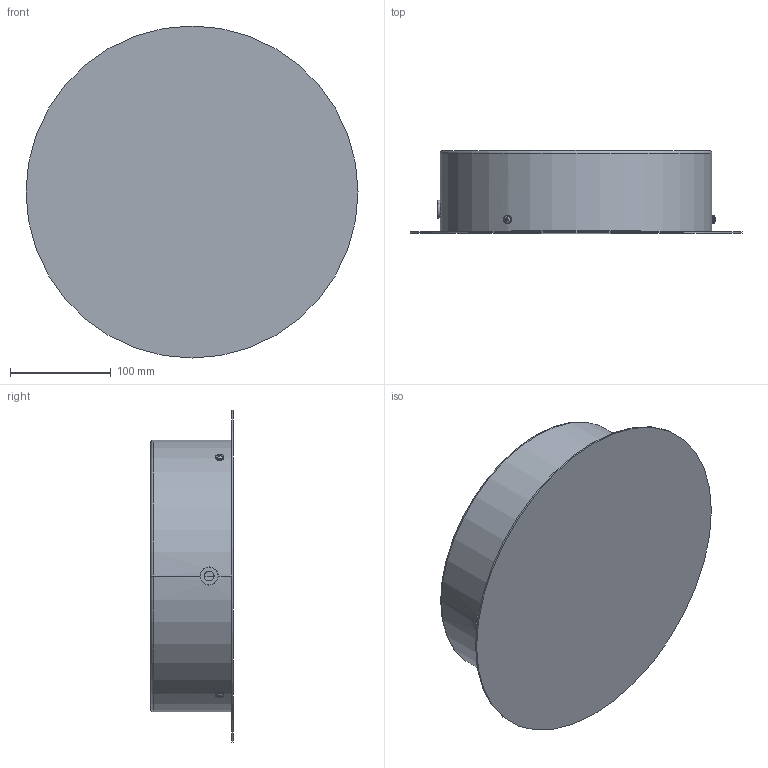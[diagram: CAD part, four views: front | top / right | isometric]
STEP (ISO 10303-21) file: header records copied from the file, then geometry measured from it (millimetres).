
FILE_DESCRIPTION (( 'STEP AP203' ), '1' );
FILE_NAME ('ACCANOPYTO001XX.STEP', '2023-09-14T07:44:11', ( '' ), ( '' ), 'SwSTEP 2.0', 'SolidWorks 2023', '' );
FILE_SCHEMA (( 'CONFIG_CONTROL_DESIGN' ));
Length unit declared in the file: millimetre
Products named in the file (10): WSASS-000000018-32-01.STEP; WSCM2A0021-0728-00.STEP; WSCM2C0046-0100-00.STEP; WSCM2J0005-0132-00.STEP; WSCEE0000000000003.STEP; WSMCVIA-04A10-0141_WSMCVIA-04A10-0141.STEP; WSCM2F0010-0128-01.STEP; WSCM2C0028-0100-00.STEP; WSMCROB04-----0141_MC-R002-EX-FE-00.STEP; ACCANOPYTO001XX
Assembly tree (15 placements, depth 4):
  ACCANOPYTO001XX
    WSASS-000000018-32-01.STEP
      WSCM2J0005-0132-00.STEP
        WSCM2C0046-0100-00.STEP
        WSCM2C0028-0100-00.STEP  x3
        WSCEE0000000000003.STEP
      WSMCVIA-04A10-0141_WSMCVIA-04A10-0141.STEP  x3
      WSMCROB04-----0141_MC-R002-EX-FE-00.STEP  x3
      WSCM2A0021-0728-00.STEP
      WSCM2F0010-0128-01.STEP
Bounding box: 330 x 82 x 330 mm (x, y, z)
Volume: 313292.9 mm3; surface area: 421698 mm2
Topology: 13 solids, 13 shells, 396 faces, 1104 edges, 663 vertices
Faces by surface type: plane 196, cylinder 72, bspline 66, cone 40, torus 16, sphere 6
Entity records: 7848 total; most frequent: CARTESIAN_POINT 1979, ORIENTED_EDGE 976, DIRECTION 964, EDGE_CURVE 488, AXIS2_PLACEMENT_3D 366, VERTEX_POINT 313, LINE 232, VECTOR 232
